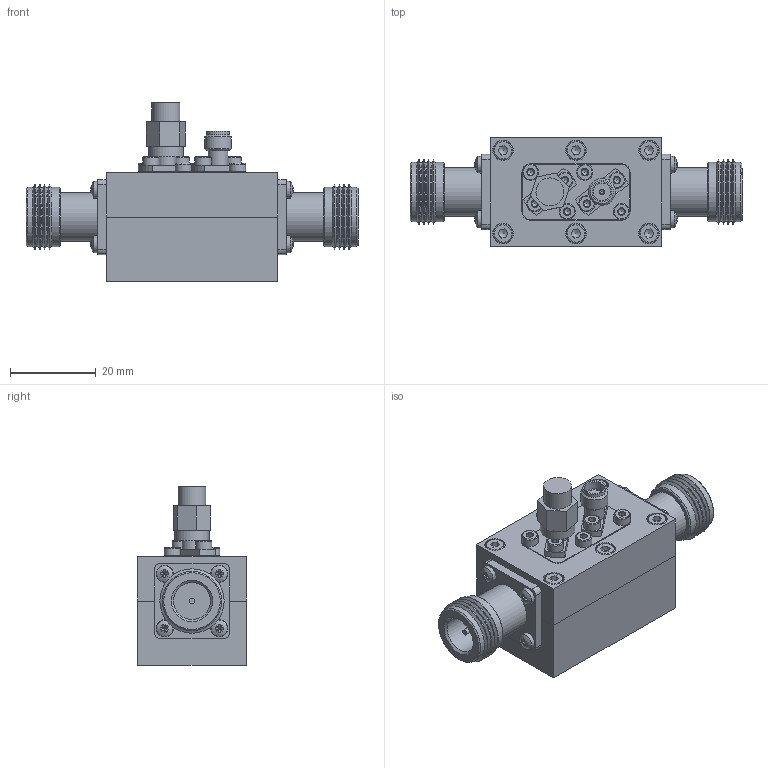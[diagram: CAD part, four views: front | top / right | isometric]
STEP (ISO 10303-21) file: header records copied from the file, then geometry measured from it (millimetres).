
FILE_DESCRIPTION(/* description */ ('Unknown'),/* implementation_level */ '2;1');
FILE_NAME(/* name */ 'DETI_MICROWAVE_LOW_LOSS_HIGH_POWER_COUPLER_800329_step',/* time_stamp */ '2023-11-08T15:23:25+01:00',/* author */ ('Unknown'),/* organization */ ('Unknown'),/* preprocessor_version */ 'ST-DEVELOPER v18.102',/* originating_system */ 'Solid Edge',/* authorisation */ 'Unknown');
FILE_SCHEMA (('AUTOMOTIVE_DESIGN {1 0 10303 214 3 1 1}'));
Length unit declared in the file: millimetre
Products named in the file (13): asm pour step site; 700411 1601B; 700412 1601B; 700415 1601A; 931 304 03 04 01 DE A; 931 304 04 04 01 DE A; SMA 27GHz tronqué2trous; 931 305 06; Charge50Ohms; 920 319 01 04 01 XX A_mir; 920 319 01 04 01 XX A; 931 704 02 04 01 DE A
Assembly tree (32 placements, depth 3):
  asm pour step site
    700411 1601B
    700412 1601B
    700415 1601A
    931 304 03 04 01 DE A  x4
    931 304 04 04 01 DE A  x4
    SMA 27GHz tronqué2trous  x2
    931 305 06  x6
    Charge50Ohms
    920 319 01 04 01 XX A_mir
      920 319 01 04 01 XX A
      931 704 02 04 01 DE A  x4
    920 319 01 04 01 XX A
      920 319 01 04 01 XX A
      931 704 02 04 01 DE A  x4
Bounding box: 77.4 x 25.4 x 41.62 mm (x, y, z)
Volume: 28934.4 mm3; surface area: 18387.2 mm2
Topology: 30 solids, 38 shells, 892 faces, 2102 edges, 1359 vertices
Faces by surface type: plane 503, cylinder 211, cone 132, torus 38, sphere 8
Full cylindrical faces by diameter (mm): 0.4 x8, 0.8 x1, 0.975 x2, 0.985 x2, 1.265 x2, 1.27 x5, 1.567 x28, 1.7 x4, 2 x16, 2.013 x12, 2.2 x4, 2.459 x8, 2.5 x6, 3 x6, 3.2 x8, 3.8 x8, 4.1 x2, 4.11 x4, 4.5 x6, 4.6 x2, 4.64 x2, 4.8 x6, 5.35 x2, 6.255 x2, 6.5 x1, 6.8 x1, 7.6 x2, 8 x1, 8.61 x2, 11.4 x2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
Entity records: 11240 total; most frequent: DIRECTION 1646, CARTESIAN_POINT 1545, ORIENTED_EDGE 1188, AXIS2_PLACEMENT_3D 694, FACE_BOUND 623, EDGE_LOOP 596, EDGE_CURVE 594, VERTEX_POINT 495
